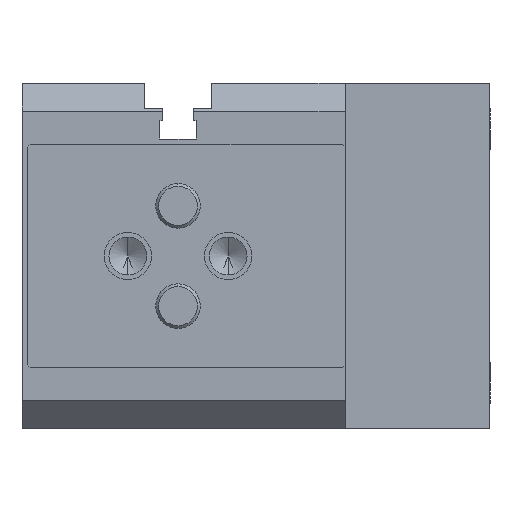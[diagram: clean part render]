
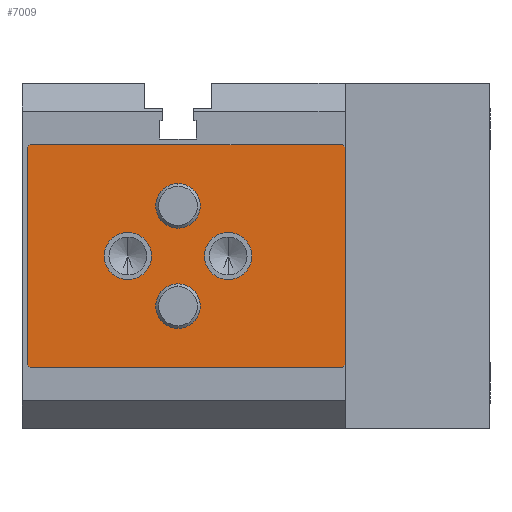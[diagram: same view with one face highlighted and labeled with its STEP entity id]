
A CAD part, left-side view. The second image highlights one B-rep face of the part: STEP entity #7009.
In plain terms, the highlighted planar face has unit normal (-1, 0, 0).
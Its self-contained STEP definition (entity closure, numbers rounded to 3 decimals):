
#179 = EDGE_LOOP ( 'NONE', ( #15630, #191 ) ) ;
#191 = ORIENTED_EDGE ( 'NONE', *, *, #11979, .T. ) ;
#414 = CARTESIAN_POINT ( 'NONE',  ( 0., -9., 4.25 ) ) ;
#923 = VERTEX_POINT ( 'NONE', #38152 ) ;
#1421 = DIRECTION ( 'NONE',  ( 0., 0., 1. ) ) ;
#1962 = VERTEX_POINT ( 'NONE', #34710 ) ;
#2008 = CARTESIAN_POINT ( 'NONE',  ( 0., 0., -13. ) ) ;
#2355 = CARTESIAN_POINT ( 'NONE',  ( 0., 26.5, -20. ) ) ;
#2508 = ORIENTED_EDGE ( 'NONE', *, *, #31140, .T. ) ;
#2826 = VERTEX_POINT ( 'NONE', #15198 ) ;
#2889 = VECTOR ( 'NONE', #40982, 1000. ) ;
#2949 = VERTEX_POINT ( 'NONE', #42719 ) ;
#3133 = CARTESIAN_POINT ( 'NONE',  ( 0., 0., 13. ) ) ;
#3170 = DIRECTION ( 'NONE',  ( 0., 0., 1. ) ) ;
#3615 = ORIENTED_EDGE ( 'NONE', *, *, #41065, .T. ) ;
#3639 = DIRECTION ( 'NONE',  ( 1., 0., 0. ) ) ;
#3822 = ORIENTED_EDGE ( 'NONE', *, *, #14164, .T. ) ;
#4958 = ORIENTED_EDGE ( 'NONE', *, *, #29119, .T. ) ;
#5070 = AXIS2_PLACEMENT_3D ( 'NONE', #40820, #18404, #44626 ) ;
#5651 = CARTESIAN_POINT ( 'NONE',  ( 0., -9., -4.25 ) ) ;
#5850 = ORIENTED_EDGE ( 'NONE', *, *, #27404, .T. ) ;
#6864 = EDGE_CURVE ( 'NONE', #2826, #23388, #21944, .T. ) ;
#7009 = ADVANCED_FACE ( 'NONE', ( #37041, #45886, #8417, #35902, #25866 ), #42491, .T. ) ;
#7384 = CARTESIAN_POINT ( 'NONE',  ( 0., 26.5, -20. ) ) ;
#7560 = ORIENTED_EDGE ( 'NONE', *, *, #34536, .T. ) ;
#8120 = DIRECTION ( 'NONE',  ( 1., 0., 0. ) ) ;
#8417 = FACE_BOUND ( 'NONE', #20292, .T. ) ;
#10180 = EDGE_LOOP ( 'NONE', ( #5850, #3615, #46933, #12588, #18944, #3822, #7560, #43726 ) ) ;
#10363 = DIRECTION ( 'NONE',  ( 1., 0., 0. ) ) ;
#11228 = EDGE_CURVE ( 'NONE', #1962, #29108, #13469, .T. ) ;
#11431 = LINE ( 'NONE', #12957, #48469 ) ;
#11979 = EDGE_CURVE ( 'NONE', #29108, #1962, #19256, .T. ) ;
#12588 = ORIENTED_EDGE ( 'NONE', *, *, #29981, .T. ) ;
#12704 = CARTESIAN_POINT ( 'NONE',  ( 0., 9., -4.25 ) ) ;
#12957 = CARTESIAN_POINT ( 'NONE',  ( 0., 26.5, 20. ) ) ;
#13114 = LINE ( 'NONE', #39245, #19521 ) ;
#13237 = EDGE_CURVE ( 'NONE', #14029, #37160, #26749, .T. ) ;
#13469 = CIRCLE ( 'NONE', #17028, 4. ) ;
#13517 = VECTOR ( 'NONE', #30957, 1000. ) ;
#14029 = VERTEX_POINT ( 'NONE', #414 ) ;
#14164 = EDGE_CURVE ( 'NONE', #32911, #35174, #36722, .T. ) ;
#14791 = AXIS2_PLACEMENT_3D ( 'NONE', #21809, #48085, #25522 ) ;
#14804 = CARTESIAN_POINT ( 'NONE',  ( 0., 27., -19.5 ) ) ;
#15003 = VERTEX_POINT ( 'NONE', #7384 ) ;
#15198 = CARTESIAN_POINT ( 'NONE',  ( 0., 0., -5. ) ) ;
#15630 = ORIENTED_EDGE ( 'NONE', *, *, #11228, .T. ) ;
#16264 = CARTESIAN_POINT ( 'NONE',  ( 0., -30., -19.5 ) ) ;
#17001 = CARTESIAN_POINT ( 'NONE',  ( 0., -30., -19.5 ) ) ;
#17028 = AXIS2_PLACEMENT_3D ( 'NONE', #17917, #44134, #21663 ) ;
#17159 = CIRCLE ( 'NONE', #47431, 4.25 ) ;
#17673 = VECTOR ( 'NONE', #37782, 1000. ) ;
#17917 = CARTESIAN_POINT ( 'NONE',  ( 0., 0., 9. ) ) ;
#17982 = CARTESIAN_POINT ( 'NONE',  ( 0., 27., -19.5 ) ) ;
#18404 = DIRECTION ( 'NONE',  ( 1., 0., 0. ) ) ;
#18582 = AXIS2_PLACEMENT_3D ( 'NONE', #32707, #10363, #36467 ) ;
#18944 = ORIENTED_EDGE ( 'NONE', *, *, #20869, .T. ) ;
#19256 = CIRCLE ( 'NONE', #18582, 4. ) ;
#19521 = VECTOR ( 'NONE', #35479, 1000. ) ;
#19550 = VECTOR ( 'NONE', #28466, 1000. ) ;
#20004 = CIRCLE ( 'NONE', #14791, 4. ) ;
#20041 = DIRECTION ( 'NONE',  ( 0., 0., 1. ) ) ;
#20051 = CARTESIAN_POINT ( 'NONE',  ( 0., -1.5, -48. ) ) ;
#20105 = AXIS2_PLACEMENT_3D ( 'NONE', #20051, #23792, #1421 ) ;
#20292 = EDGE_LOOP ( 'NONE', ( #26807, #4958 ) ) ;
#20869 = EDGE_CURVE ( 'NONE', #32118, #32911, #13114, .T. ) ;
#21663 = DIRECTION ( 'NONE',  ( 0., 0., -1. ) ) ;
#21730 = DIRECTION ( 'NONE',  ( 0., -0.707, -0.707 ) ) ;
#21809 = CARTESIAN_POINT ( 'NONE',  ( 0., 0., -9. ) ) ;
#21944 = CIRCLE ( 'NONE', #5070, 4. ) ;
#22094 = CARTESIAN_POINT ( 'NONE',  ( 0., 9., 0. ) ) ;
#22145 = EDGE_LOOP ( 'NONE', ( #41203, #43250 ) ) ;
#22702 = AXIS2_PLACEMENT_3D ( 'NONE', #48097, #25534, #3170 ) ;
#23388 = VERTEX_POINT ( 'NONE', #2008 ) ;
#23792 = DIRECTION ( 'NONE',  ( -1., 0., 0. ) ) ;
#25522 = DIRECTION ( 'NONE',  ( 0., 0., -1. ) ) ;
#25534 = DIRECTION ( 'NONE',  ( 1., 0., 0. ) ) ;
#25807 = DIRECTION ( 'NONE',  ( 0., 0., 1. ) ) ;
#25866 = FACE_BOUND ( 'NONE', #22145, .T. ) ;
#26003 = CARTESIAN_POINT ( 'NONE',  ( 0., -9., 0. ) ) ;
#26749 = CIRCLE ( 'NONE', #45280, 4.25 ) ;
#26807 = ORIENTED_EDGE ( 'NONE', *, *, #45234, .T. ) ;
#26876 = VERTEX_POINT ( 'NONE', #12704 ) ;
#27164 = CARTESIAN_POINT ( 'NONE',  ( 0., -30., 19.5 ) ) ;
#27217 = VERTEX_POINT ( 'NONE', #45052 ) ;
#27404 = EDGE_CURVE ( 'NONE', #32711, #923, #11431, .T. ) ;
#27562 = LINE ( 'NONE', #45190, #17673 ) ;
#27923 = CARTESIAN_POINT ( 'NONE',  ( 0., -30., 19.5 ) ) ;
#28355 = CARTESIAN_POINT ( 'NONE',  ( 0., -29.5, -20. ) ) ;
#28466 = DIRECTION ( 'NONE',  ( 0., -1., 0. ) ) ;
#29108 = VERTEX_POINT ( 'NONE', #3133 ) ;
#29119 = EDGE_CURVE ( 'NONE', #26876, #27217, #37127, .T. ) ;
#29781 = DIRECTION ( 'NONE',  ( 0., 0., 1. ) ) ;
#29981 = EDGE_CURVE ( 'NONE', #15003, #32118, #48330, .T. ) ;
#30451 = CARTESIAN_POINT ( 'NONE',  ( 0., -9., 0. ) ) ;
#30957 = DIRECTION ( 'NONE',  ( 0., 0.707, 0.707 ) ) ;
#31140 = EDGE_CURVE ( 'NONE', #37160, #14029, #17159, .T. ) ;
#31554 = LINE ( 'NONE', #14804, #2889 ) ;
#31566 = CARTESIAN_POINT ( 'NONE',  ( 0., 27., -19.5 ) ) ;
#32118 = VERTEX_POINT ( 'NONE', #28355 ) ;
#32707 = CARTESIAN_POINT ( 'NONE',  ( 0., 0., 9. ) ) ;
#32711 = VERTEX_POINT ( 'NONE', #34024 ) ;
#32719 = EDGE_CURVE ( 'NONE', #2949, #32711, #27562, .T. ) ;
#32911 = VERTEX_POINT ( 'NONE', #17001 ) ;
#34024 = CARTESIAN_POINT ( 'NONE',  ( 0., 26.5, 20. ) ) ;
#34260 = DIRECTION ( 'NONE',  ( 0., 0., 1. ) ) ;
#34536 = EDGE_CURVE ( 'NONE', #35174, #2949, #43404, .T. ) ;
#34710 = CARTESIAN_POINT ( 'NONE',  ( 0., 0., 5. ) ) ;
#35174 = VERTEX_POINT ( 'NONE', #27923 ) ;
#35479 = DIRECTION ( 'NONE',  ( 0., -0.707, 0.707 ) ) ;
#35902 = FACE_BOUND ( 'NONE', #40069, .T. ) ;
#36005 = EDGE_CURVE ( 'NONE', #23388, #2826, #20004, .T. ) ;
#36228 = LINE ( 'NONE', #17982, #46227 ) ;
#36467 = DIRECTION ( 'NONE',  ( 0., 0., -1. ) ) ;
#36722 = LINE ( 'NONE', #16264, #45548 ) ;
#37041 = FACE_BOUND ( 'NONE', #179, .T. ) ;
#37127 = CIRCLE ( 'NONE', #40113, 4.25 ) ;
#37160 = VERTEX_POINT ( 'NONE', #5651 ) ;
#37782 = DIRECTION ( 'NONE',  ( 0., 1., 0. ) ) ;
#38152 = CARTESIAN_POINT ( 'NONE',  ( 0., 27., 19.5 ) ) ;
#39245 = CARTESIAN_POINT ( 'NONE',  ( 0., -29.5, -20. ) ) ;
#40069 = EDGE_LOOP ( 'NONE', ( #45121, #2508 ) ) ;
#40113 = AXIS2_PLACEMENT_3D ( 'NONE', #22094, #48382, #25807 ) ;
#40820 = CARTESIAN_POINT ( 'NONE',  ( 0., 0., -9. ) ) ;
#40982 = DIRECTION ( 'NONE',  ( 0., 0., -1. ) ) ;
#41065 = EDGE_CURVE ( 'NONE', #923, #46693, #31554, .T. ) ;
#41203 = ORIENTED_EDGE ( 'NONE', *, *, #36005, .T. ) ;
#41321 = CIRCLE ( 'NONE', #22702, 4.25 ) ;
#41940 = EDGE_CURVE ( 'NONE', #46693, #15003, #36228, .T. ) ;
#42491 = PLANE ( 'NONE',  #20105 ) ;
#42719 = CARTESIAN_POINT ( 'NONE',  ( 0., -29.5, 20. ) ) ;
#43250 = ORIENTED_EDGE ( 'NONE', *, *, #6864, .T. ) ;
#43404 = LINE ( 'NONE', #27164, #13517 ) ;
#43726 = ORIENTED_EDGE ( 'NONE', *, *, #32719, .T. ) ;
#44134 = DIRECTION ( 'NONE',  ( 1., 0., 0. ) ) ;
#44626 = DIRECTION ( 'NONE',  ( 0., 0., -1. ) ) ;
#45052 = CARTESIAN_POINT ( 'NONE',  ( 0., 9., 4.25 ) ) ;
#45121 = ORIENTED_EDGE ( 'NONE', *, *, #13237, .T. ) ;
#45190 = CARTESIAN_POINT ( 'NONE',  ( 0., 26.5, 20. ) ) ;
#45234 = EDGE_CURVE ( 'NONE', #27217, #26876, #41321, .T. ) ;
#45280 = AXIS2_PLACEMENT_3D ( 'NONE', #26003, #3639, #29781 ) ;
#45548 = VECTOR ( 'NONE', #20041, 1000. ) ;
#45886 = FACE_OUTER_BOUND ( 'NONE', #10180, .T. ) ;
#46227 = VECTOR ( 'NONE', #21730, 1000. ) ;
#46693 = VERTEX_POINT ( 'NONE', #31566 ) ;
#46878 = DIRECTION ( 'NONE',  ( 0., 0.707, -0.707 ) ) ;
#46933 = ORIENTED_EDGE ( 'NONE', *, *, #41940, .T. ) ;
#47431 = AXIS2_PLACEMENT_3D ( 'NONE', #30451, #8120, #34260 ) ;
#48085 = DIRECTION ( 'NONE',  ( 1., 0., 0. ) ) ;
#48097 = CARTESIAN_POINT ( 'NONE',  ( 0., 9., 0. ) ) ;
#48330 = LINE ( 'NONE', #2355, #19550 ) ;
#48382 = DIRECTION ( 'NONE',  ( 1., 0., 0. ) ) ;
#48469 = VECTOR ( 'NONE', #46878, 1000. ) ;
